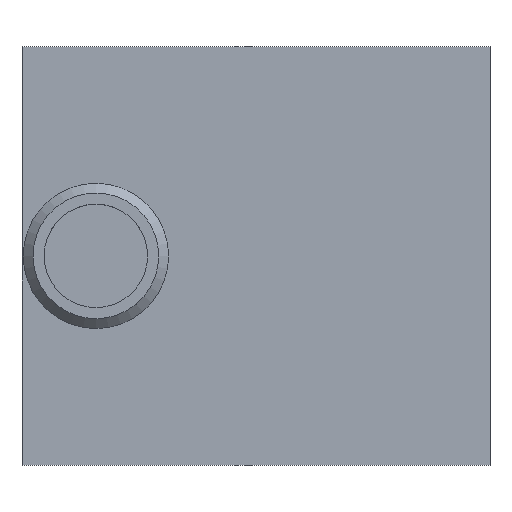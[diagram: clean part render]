
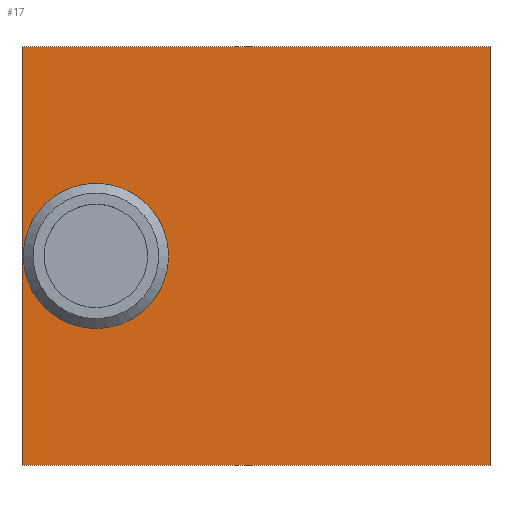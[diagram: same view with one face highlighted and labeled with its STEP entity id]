
A CAD part, top view. The second image highlights one B-rep face of the part: STEP entity #17.
In plain terms, the highlighted planar face has unit normal (0, 0, 1).
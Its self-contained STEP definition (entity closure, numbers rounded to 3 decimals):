
#17 = ADVANCED_FACE('',(#18,#29),#63,.T.);
#18 = FACE_BOUND('',#19,.T.);
#19 = EDGE_LOOP('',(#20));
#20 = ORIENTED_EDGE('',*,*,#21,.F.);
#21 = EDGE_CURVE('',#22,#22,#24,.T.);
#22 = VERTEX_POINT('',#23);
#23 = CARTESIAN_POINT('',(5.95,0.,2.));
#24 = CIRCLE('',#25,2.95);
#25 = AXIS2_PLACEMENT_3D('',#26,#27,#28);
#26 = CARTESIAN_POINT('',(3.,0.,2.));
#27 = DIRECTION('',(0.,0.,1.));
#28 = DIRECTION('',(1.,0.,0.));
#29 = FACE_BOUND('',#30,.T.);
#30 = EDGE_LOOP('',(#31,#41,#49,#57));
#31 = ORIENTED_EDGE('',*,*,#32,.T.);
#32 = EDGE_CURVE('',#33,#35,#37,.T.);
#33 = VERTEX_POINT('',#34);
#34 = CARTESIAN_POINT('',(0.,8.5,2.));
#35 = VERTEX_POINT('',#36);
#36 = CARTESIAN_POINT('',(0.,-8.5,2.));
#37 = LINE('',#38,#39);
#38 = CARTESIAN_POINT('',(0.,8.5,2.));
#39 = VECTOR('',#40,1.);
#40 = DIRECTION('',(0.,-1.,0.));
#41 = ORIENTED_EDGE('',*,*,#42,.T.);
#42 = EDGE_CURVE('',#35,#43,#45,.T.);
#43 = VERTEX_POINT('',#44);
#44 = CARTESIAN_POINT('',(19.,-8.5,2.));
#45 = LINE('',#46,#47);
#46 = CARTESIAN_POINT('',(0.,-8.5,2.));
#47 = VECTOR('',#48,1.);
#48 = DIRECTION('',(1.,0.,0.));
#49 = ORIENTED_EDGE('',*,*,#50,.T.);
#50 = EDGE_CURVE('',#43,#51,#53,.T.);
#51 = VERTEX_POINT('',#52);
#52 = CARTESIAN_POINT('',(19.,8.5,2.));
#53 = LINE('',#54,#55);
#54 = CARTESIAN_POINT('',(19.,-8.5,2.));
#55 = VECTOR('',#56,1.);
#56 = DIRECTION('',(0.,1.,0.));
#57 = ORIENTED_EDGE('',*,*,#58,.T.);
#58 = EDGE_CURVE('',#51,#33,#59,.T.);
#59 = LINE('',#60,#61);
#60 = CARTESIAN_POINT('',(19.,8.5,2.));
#61 = VECTOR('',#62,1.);
#62 = DIRECTION('',(-1.,0.,0.));
#63 = PLANE('',#64);
#64 = AXIS2_PLACEMENT_3D('',#65,#66,#67);
#65 = CARTESIAN_POINT('',(9.5,0.,2.));
#66 = DIRECTION('',(0.,0.,1.));
#67 = DIRECTION('',(1.,0.,0.));
